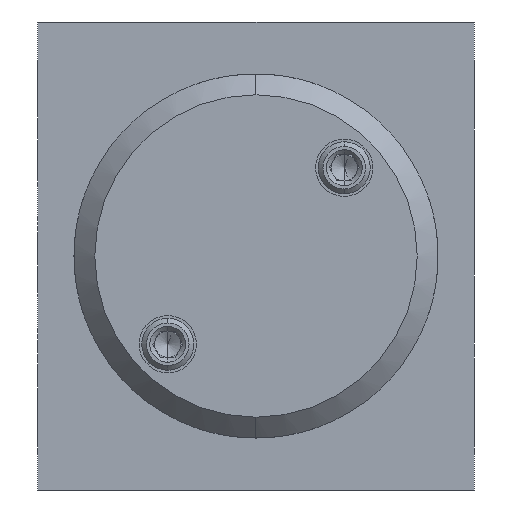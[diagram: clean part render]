
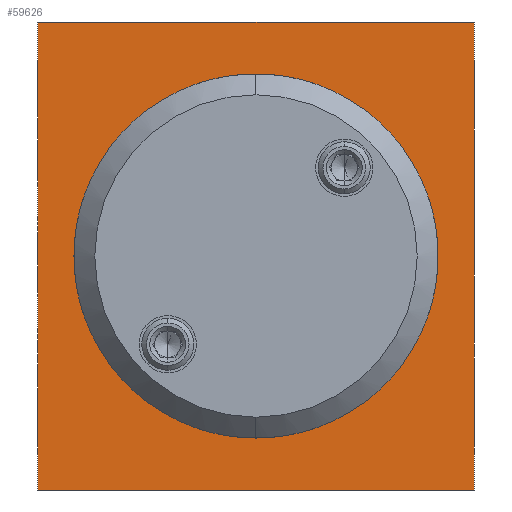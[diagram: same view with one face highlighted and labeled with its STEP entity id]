
A CAD part, left-side view. The second image highlights one B-rep face of the part: STEP entity #59626.
In plain terms, the highlighted planar face has unit normal (-1, 0, 0).
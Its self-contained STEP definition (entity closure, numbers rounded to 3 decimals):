
#237 = LINE ( 'NONE', #97199, #20124 ) ;
#724 = LINE ( 'NONE', #70812, #20635 ) ;
#3243 = FACE_OUTER_BOUND ( 'NONE', #76646, .T. ) ;
#4343 = ORIENTED_EDGE ( 'NONE', *, *, #34104, .F. ) ;
#4623 = AXIS2_PLACEMENT_3D ( 'NONE', #86587, #38137, #96544 ) ;
#5833 = EDGE_CURVE ( 'NONE', #33710, #42572, #16396, .T. ) ;
#6721 = EDGE_LOOP ( 'NONE', ( #42261, #4343 ) ) ;
#11882 = CARTESIAN_POINT ( 'NONE',  ( -60., 37., 0. ) ) ;
#16396 = LINE ( 'NONE', #97313, #80552 ) ;
#20124 = VECTOR ( 'NONE', #22008, 1000. ) ;
#20635 = VECTOR ( 'NONE', #37565, 1000. ) ;
#22008 = DIRECTION ( 'NONE',  ( 0., 0., 1. ) ) ;
#25675 = CARTESIAN_POINT ( 'NONE',  ( -60., 21., 0. ) ) ;
#26401 = CARTESIAN_POINT ( 'NONE',  ( -60., 0., 22.5 ) ) ;
#33710 = VERTEX_POINT ( 'NONE', #53870 ) ;
#34023 = DIRECTION ( 'NONE',  ( 0., -1., 0. ) ) ;
#34104 = EDGE_CURVE ( 'NONE', #90975, #91878, #60418, .T. ) ;
#35007 = DIRECTION ( 'NONE',  ( 0., -1., 0. ) ) ;
#37565 = DIRECTION ( 'NONE',  ( 0., 0., 1. ) ) ;
#38137 = DIRECTION ( 'NONE',  ( -1., 0., 0. ) ) ;
#38421 = VERTEX_POINT ( 'NONE', #61660 ) ;
#39041 = DIRECTION ( 'NONE',  ( 1., 0., 0. ) ) ;
#39130 = EDGE_CURVE ( 'NONE', #80310, #33710, #237, .T. ) ;
#42261 = ORIENTED_EDGE ( 'NONE', *, *, #50882, .F. ) ;
#42572 = VERTEX_POINT ( 'NONE', #26401 ) ;
#44933 = ORIENTED_EDGE ( 'NONE', *, *, #48254, .T. ) ;
#48254 = EDGE_CURVE ( 'NONE', #80310, #38421, #72727, .T. ) ;
#50882 = EDGE_CURVE ( 'NONE', #91878, #90975, #51999, .T. ) ;
#51999 = CIRCLE ( 'NONE', #4623, 16. ) ;
#53870 = CARTESIAN_POINT ( 'NONE',  ( -60., 42., 22.5 ) ) ;
#56874 = AXIS2_PLACEMENT_3D ( 'NONE', #88993, #39041, #97451 ) ;
#59626 = ADVANCED_FACE ( 'NONE', ( #92227, #3243 ), #63549, .F. ) ;
#60418 = CIRCLE ( 'NONE', #108583, 16. ) ;
#61660 = CARTESIAN_POINT ( 'NONE',  ( -60., 0., -22.5 ) ) ;
#63549 = PLANE ( 'NONE',  #56874 ) ;
#68343 = CARTESIAN_POINT ( 'NONE',  ( -60., 42., -22.5 ) ) ;
#70029 = VECTOR ( 'NONE', #35007, 1000. ) ;
#70812 = CARTESIAN_POINT ( 'NONE',  ( -60., 0., -22.5 ) ) ;
#72727 = LINE ( 'NONE', #68343, #70029 ) ;
#74899 = ORIENTED_EDGE ( 'NONE', *, *, #87445, .T. ) ;
#76646 = EDGE_LOOP ( 'NONE', ( #74899, #85276, #81500, #44933 ) ) ;
#80310 = VERTEX_POINT ( 'NONE', #85749 ) ;
#80552 = VECTOR ( 'NONE', #96940, 1000. ) ;
#81500 = ORIENTED_EDGE ( 'NONE', *, *, #39130, .F. ) ;
#84082 = DIRECTION ( 'NONE',  ( -1., 0., 0. ) ) ;
#85276 = ORIENTED_EDGE ( 'NONE', *, *, #5833, .F. ) ;
#85749 = CARTESIAN_POINT ( 'NONE',  ( -60., 42., -22.5 ) ) ;
#86587 = CARTESIAN_POINT ( 'NONE',  ( -60., 21., 0. ) ) ;
#87445 = EDGE_CURVE ( 'NONE', #38421, #42572, #724, .T. ) ;
#88993 = CARTESIAN_POINT ( 'NONE',  ( -60., 42., -22.5 ) ) ;
#90975 = VERTEX_POINT ( 'NONE', #11882 ) ;
#91878 = VERTEX_POINT ( 'NONE', #107814 ) ;
#92227 = FACE_BOUND ( 'NONE', #6721, .T. ) ;
#96544 = DIRECTION ( 'NONE',  ( 0., -1., 0. ) ) ;
#96940 = DIRECTION ( 'NONE',  ( 0., -1., 0. ) ) ;
#97199 = CARTESIAN_POINT ( 'NONE',  ( -60., 42., -22.5 ) ) ;
#97313 = CARTESIAN_POINT ( 'NONE',  ( -60., 42., 22.5 ) ) ;
#97451 = DIRECTION ( 'NONE',  ( 0., 0., -1. ) ) ;
#107814 = CARTESIAN_POINT ( 'NONE',  ( -60., 5., 0. ) ) ;
#108583 = AXIS2_PLACEMENT_3D ( 'NONE', #25675, #84082, #34023 ) ;
